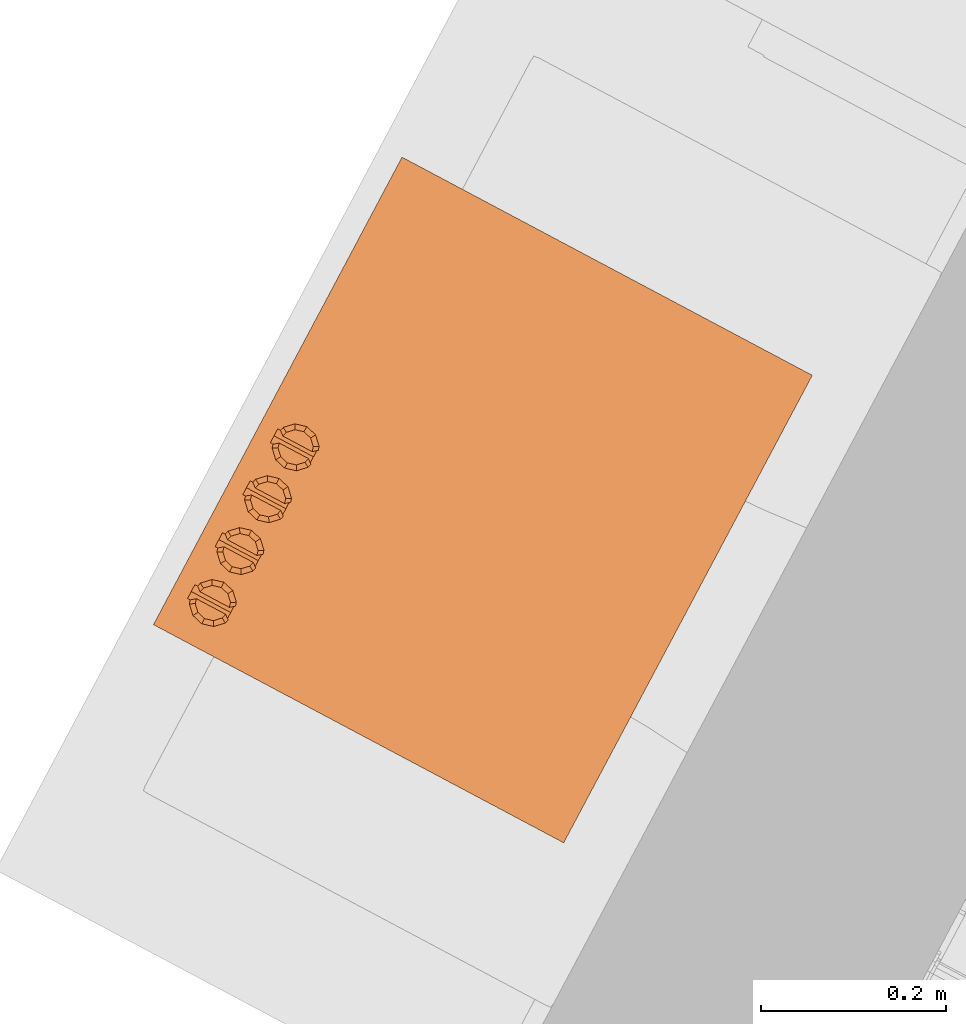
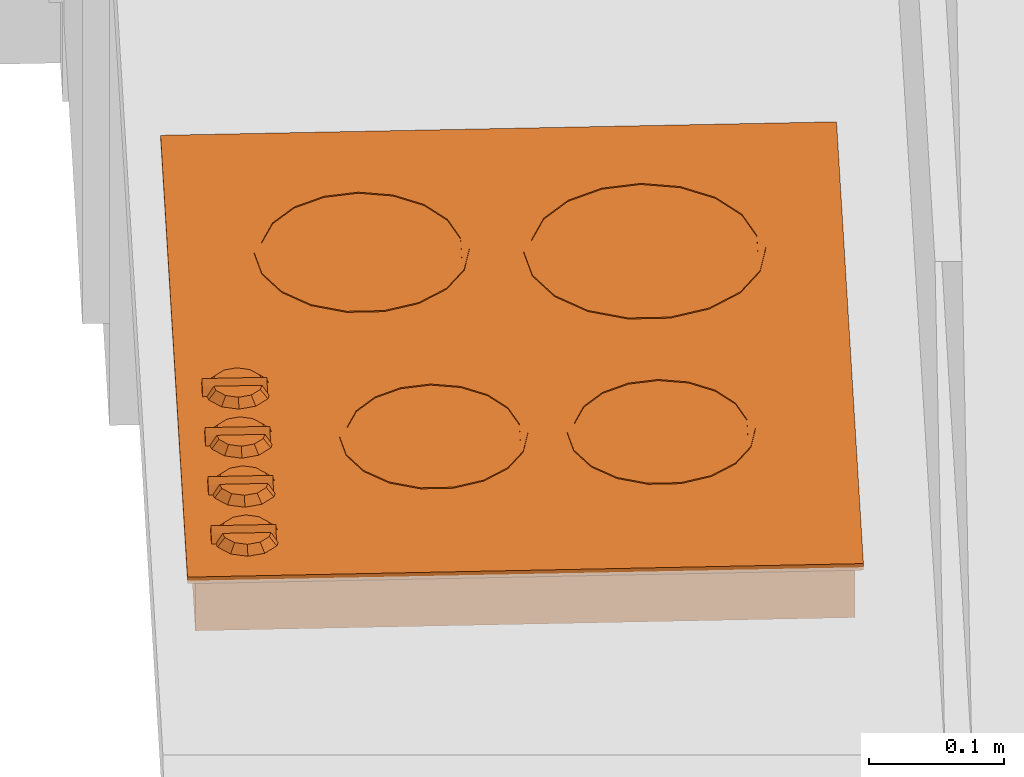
# One storey, part 23 of 27: 1 proxy.
"""IFC2X3 building model written with IfcOpenShell, lengths in metres."""

from ifc_helpers import new_model, entity, si_unit, converted_unit, derived_unit, money_unit, direction, frame, origin_with_axes, place, context, subcontext, project, spatial, faceted_brep, type_object, element, save


model = new_model("IFC2X3")

# Units and contexts
model_context = context("Model", 3, precision=1e-05, world=origin_with_axes(), true_north=direction((0.0, 1.0)))
body_context = subcontext(model_context, "Body", "Model", "MODEL_VIEW")
ifc_project = project(units=[si_unit("LENGTHUNIT", "METRE"), si_unit("AREAUNIT", "SQUARE_METRE"), si_unit("VOLUMEUNIT", "CUBIC_METRE"), converted_unit("PLANEANGLEUNIT", "DEGREE", entity("IfcPlaneAngleMeasure", 0.0174532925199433), si_unit("PLANEANGLEUNIT", "RADIAN"), dimensions=[0, 0, 0, 0, 0, 0, 0]), money_unit("CHF"), converted_unit("TIMEUNIT", "Year", entity("IfcTimeMeasure", 31557600.0), si_unit("TIMEUNIT", "SECOND"), dimensions=[0, 0, 1, 0, 0, 0, 0]), si_unit("MASSUNIT", "GRAM", prefix="KILO"), si_unit("THERMODYNAMICTEMPERATUREUNIT", "DEGREE_CELSIUS"), si_unit("LUMINOUSINTENSITYUNIT", "LUMEN"), si_unit("ENERGYUNIT", "JOULE", prefix="MEGA"), derived_unit("THERMALCONDUCTANCEUNIT", [(si_unit("POWERUNIT", "WATT"), 1), (si_unit("LENGTHUNIT", "METRE"), -1), (si_unit("THERMODYNAMICTEMPERATUREUNIT", "KELVIN"), -1)]), derived_unit("SPECIFICHEATCAPACITYUNIT", [(si_unit("ENERGYUNIT", "JOULE"), 1), (si_unit("MASSUNIT", "GRAM", prefix="KILO"), -1), (si_unit("THERMODYNAMICTEMPERATUREUNIT", "KELVIN"), -1)]), derived_unit("MASSDENSITYUNIT", [(si_unit("MASSUNIT", "GRAM", prefix="KILO"), 1), (si_unit("VOLUMEUNIT", "CUBIC_METRE"), -1)])], contexts=[model_context])

# Site, building, storey
site_placement = place(None, frame((0.0, 0.0, 0.0), z_axis=(0.0, 0.0, 1.0), x_axis=(-0.4694715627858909, -0.8829475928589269, 0.0)))
site = spatial("IfcSite", under=ifc_project, at=site_placement, Name="Site", CompositionType="ELEMENT")
building_placement = place(site_placement, origin_with_axes())
building = spatial("IfcBuilding", under=site, at=building_placement, Name="Bâtiment", CompositionType="ELEMENT")
storey_placement = place(building_placement, origin_with_axes())
storey = spatial("IfcBuildingStorey", under=building, at=storey_placement, Name="RDC", CompositionType="ELEMENT", Elevation=0.0)

# Proxy
building_element_proxy_type = type_object("IfcBuildingElementProxyType", Name="Table de cuisson électrique 27", PredefinedType="NOTDEFINED")
proxy_placement = place(storey_placement, frame((135.9435710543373, -829.6084803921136, -0.00373797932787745), z_axis=(0.0, 0.0, 1.0), x_axis=(1.0, 0.0, 0.0)))
element("IfcBuildingElementProxy", 1, at=proxy_placement, inside=storey, type_object=building_element_proxy_type, Name="Obj.-484", context=body_context, shape_type="Brep", body=[
    faceted_brep([(0.155, 0.224, 0.9), (0.1276383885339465, 0.2191754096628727, 0.9), (0.1276383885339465, 0.2191754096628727, 0.907), (0.155, 0.224, 0.907), (0.1823616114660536, 0.2191754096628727, 0.9), (0.2064230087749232, 0.2052835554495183, 0.9), (0.2242820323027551, 0.184, 0.9), (0.2337846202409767, 0.1578918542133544, 0.9), (0.2337846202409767, 0.1301081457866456, 0.9), (0.2242820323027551, 0.104, 0.9), (0.2064230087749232, 0.08271644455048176, 0.9), (0.1823616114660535, 0.06882459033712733, 0.9), (0.155, 0.06399999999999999, 0.9), (0.1276383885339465, 0.06882459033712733, 0.9), (0.1035769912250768, 0.08271644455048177, 0.9), (0.08571796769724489, 0.104, 0.9), (0.07621537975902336, 0.1301081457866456, 0.9), (0.07621537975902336, 0.1578918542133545, 0.9), (0.08571796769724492, 0.1840000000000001, 0.9), (0.1035769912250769, 0.2052835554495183, 0.9), (0.23, 0.144, 0.9), (0.2254769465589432, 0.1696515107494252, 0.9), (0.2124533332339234, 0.1922090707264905, 0.9), (0.1925, 0.2089519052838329, 0.9), (0.1680236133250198, 0.2178605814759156, 0.9), (0.1419763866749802, 0.2178605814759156, 0.9), (0.1175, 0.208951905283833, 0.9), (0.09754666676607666, 0.1922090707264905, 0.9), (0.08452305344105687, 0.1696515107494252, 0.9), (0.08, 0.144, 0.9), (0.08452305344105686, 0.1183484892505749, 0.9), (0.09754666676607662, 0.09579092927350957, 0.9), (0.1175, 0.07904809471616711, 0.9), (0.1419763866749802, 0.07013941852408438, 0.9), (0.1680236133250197, 0.07013941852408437, 0.9), (0.1925, 0.07904809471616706, 0.9), (0.2124533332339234, 0.09579092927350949, 0.9), (0.2254769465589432, 0.1183484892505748, 0.9), (0.1035769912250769, 0.2052835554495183, 0.907), (0.08571796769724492, 0.1840000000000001, 0.907), (0.07621537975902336, 0.1578918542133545, 0.907), (0.07621537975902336, 0.1301081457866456, 0.907), (0.08571796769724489, 0.104, 0.907), (0.1035769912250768, 0.08271644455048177, 0.907), (0.1276383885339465, 0.06882459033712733, 0.907), (0.155, 0.06399999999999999, 0.907), (0.1823616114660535, 0.06882459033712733, 0.907), (0.2064230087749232, 0.08271644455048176, 0.907), (0.2242820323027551, 0.104, 0.907), (0.2337846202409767, 0.1301081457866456, 0.907), (0.2337846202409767, 0.1578918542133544, 0.907), (0.2242820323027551, 0.184, 0.907), (0.2064230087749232, 0.2052835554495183, 0.907), (0.1823616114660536, 0.2191754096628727, 0.907), (0.23, 0.144, 0.907), (0.2254769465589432, 0.1183484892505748, 0.907), (0.2124533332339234, 0.09579092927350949, 0.907), (0.1925, 0.07904809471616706, 0.907), (0.1680236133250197, 0.07013941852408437, 0.907), (0.1419763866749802, 0.07013941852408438, 0.907), (0.1175, 0.07904809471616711, 0.907), (0.09754666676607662, 0.09579092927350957, 0.907), (0.08452305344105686, 0.1183484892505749, 0.907), (0.08, 0.144, 0.907), (0.08452305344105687, 0.1696515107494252, 0.907), (0.09754666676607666, 0.1922090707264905, 0.907), (0.1175, 0.208951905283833, 0.907), (0.1419763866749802, 0.2178605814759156, 0.907), (0.1680236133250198, 0.2178605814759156, 0.907), (0.1925, 0.2089519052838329, 0.907), (0.2124533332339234, 0.1922090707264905, 0.907), (0.2254769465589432, 0.1696515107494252, 0.907)], [[[0, 1, 2, 3]], [[0, 4, 5, 6, 7, 8, 9, 10, 11, 12, 13, 14, 15, 16, 17, 18, 19, 1], [20, 21, 22, 23, 24, 25, 26, 27, 28, 29, 30, 31, 32, 33, 34, 35, 36, 37]], [[1, 19, 38, 2]], [[3, 2, 38, 39, 40, 41, 42, 43, 44, 45, 46, 47, 48, 49, 50, 51, 52, 53], [54, 55, 56, 57, 58, 59, 60, 61, 62, 63, 64, 65, 66, 67, 68, 69, 70, 71]], [[4, 0, 3, 53]], [[5, 4, 53, 52]], [[6, 5, 52, 51]], [[7, 6, 51, 50]], [[8, 7, 50, 49]], [[9, 8, 49, 48]], [[10, 9, 48, 47]], [[11, 10, 47, 46]], [[12, 11, 46, 45]], [[13, 12, 45, 44]], [[14, 13, 44, 43]], [[15, 14, 43, 42]], [[16, 15, 42, 41]], [[17, 16, 41, 40]], [[18, 17, 40, 39]], [[19, 18, 39, 38]], [[21, 20, 54, 71]], [[22, 21, 71, 70]], [[23, 22, 70, 69]], [[24, 23, 69, 68]], [[25, 24, 68, 67]], [[26, 25, 67, 66]], [[27, 26, 66, 65]], [[28, 27, 65, 64]], [[29, 28, 64, 63]], [[30, 29, 63, 62]], [[31, 30, 62, 61]], [[32, 31, 61, 60]], [[33, 32, 60, 59]], [[34, 33, 59, 58]], [[35, 34, 58, 57]], [[36, 35, 57, 56]], [[37, 36, 56, 55]], [[20, 37, 55, 54]]]),
    faceted_brep([(0.395, 0.428, 0.9), (0.3710585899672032, 0.4237784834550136, 0.9), (0.3710585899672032, 0.4237784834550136, 0.907), (0.395, 0.428, 0.907), (0.4189414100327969, 0.4237784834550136, 0.9), (0.4399951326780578, 0.4116231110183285, 0.9), (0.4556217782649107, 0.393, 0.9), (0.4639365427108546, 0.3701553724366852, 0.9), (0.4639365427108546, 0.3458446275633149, 0.9), (0.4556217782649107, 0.323, 0.9), (0.4399951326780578, 0.3043768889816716, 0.9), (0.4189414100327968, 0.2922215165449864, 0.9), (0.395, 0.288, 0.9), (0.3710585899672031, 0.2922215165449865, 0.9), (0.3500048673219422, 0.3043768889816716, 0.9), (0.3343782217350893, 0.3230000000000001, 0.9), (0.3260634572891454, 0.3458446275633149, 0.9), (0.3260634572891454, 0.3701553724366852, 0.9), (0.3343782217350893, 0.3930000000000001, 0.9), (0.3500048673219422, 0.4116231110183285, 0.9), (0.46, 0.358, 0.9), (0.4560800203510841, 0.3802313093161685, 0.9), (0.4447928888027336, 0.3997811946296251, 0.9), (0.4275, 0.4142916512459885, 0.9), (0.4062871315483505, 0.4220125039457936, 0.9), (0.3837128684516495, 0.4220125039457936, 0.9), (0.3625, 0.4142916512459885, 0.9), (0.3452071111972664, 0.3997811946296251, 0.9), (0.333919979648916, 0.3802313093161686, 0.9), (0.33, 0.358, 0.9), (0.333919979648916, 0.3357686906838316, 0.9), (0.3452071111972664, 0.316218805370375, 0.9), (0.3625, 0.3017083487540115, 0.9), (0.3837128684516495, 0.2939874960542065, 0.9), (0.4062871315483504, 0.2939874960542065, 0.9), (0.4275, 0.3017083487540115, 0.9), (0.4447928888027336, 0.3162188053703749, 0.9), (0.4560800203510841, 0.3357686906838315, 0.9), (0.3500048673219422, 0.4116231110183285, 0.907), (0.3343782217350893, 0.3930000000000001, 0.907), (0.3260634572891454, 0.3701553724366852, 0.907), (0.3260634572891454, 0.3458446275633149, 0.907), (0.3343782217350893, 0.3230000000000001, 0.907), (0.3500048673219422, 0.3043768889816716, 0.907), (0.3710585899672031, 0.2922215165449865, 0.907), (0.395, 0.288, 0.907), (0.4189414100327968, 0.2922215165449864, 0.907), (0.4399951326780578, 0.3043768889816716, 0.907), (0.4556217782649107, 0.323, 0.907), (0.4639365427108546, 0.3458446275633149, 0.907), (0.4639365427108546, 0.3701553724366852, 0.907), (0.4556217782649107, 0.393, 0.907), (0.4399951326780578, 0.4116231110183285, 0.907), (0.4189414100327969, 0.4237784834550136, 0.907), (0.46, 0.358, 0.907), (0.4560800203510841, 0.3357686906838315, 0.907), (0.4447928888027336, 0.3162188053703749, 0.907), (0.4275, 0.3017083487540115, 0.907), (0.4062871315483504, 0.2939874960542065, 0.907), (0.3837128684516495, 0.2939874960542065, 0.907), (0.3625, 0.3017083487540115, 0.907), (0.3452071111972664, 0.316218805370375, 0.907), (0.333919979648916, 0.3357686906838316, 0.907), (0.33, 0.358, 0.907), (0.333919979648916, 0.3802313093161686, 0.907), (0.3452071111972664, 0.3997811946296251, 0.907), (0.3625, 0.4142916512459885, 0.907), (0.3837128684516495, 0.4220125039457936, 0.907), (0.4062871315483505, 0.4220125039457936, 0.907), (0.4275, 0.4142916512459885, 0.907), (0.4447928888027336, 0.3997811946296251, 0.907), (0.4560800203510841, 0.3802313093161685, 0.907)], [[[0, 1, 2, 3]], [[0, 4, 5, 6, 7, 8, 9, 10, 11, 12, 13, 14, 15, 16, 17, 18, 19, 1], [20, 21, 22, 23, 24, 25, 26, 27, 28, 29, 30, 31, 32, 33, 34, 35, 36, 37]], [[1, 19, 38, 2]], [[3, 2, 38, 39, 40, 41, 42, 43, 44, 45, 46, 47, 48, 49, 50, 51, 52, 53], [54, 55, 56, 57, 58, 59, 60, 61, 62, 63, 64, 65, 66, 67, 68, 69, 70, 71]], [[4, 0, 3, 53]], [[5, 4, 53, 52]], [[6, 5, 52, 51]], [[7, 6, 51, 50]], [[8, 7, 50, 49]], [[9, 8, 49, 48]], [[10, 9, 48, 47]], [[11, 10, 47, 46]], [[12, 11, 46, 45]], [[13, 12, 45, 44]], [[14, 13, 44, 43]], [[15, 14, 43, 42]], [[16, 15, 42, 41]], [[17, 16, 41, 40]], [[18, 17, 40, 39]], [[19, 18, 39, 38]], [[21, 20, 54, 71]], [[22, 21, 71, 70]], [[23, 22, 70, 69]], [[24, 23, 69, 68]], [[25, 24, 68, 67]], [[26, 25, 67, 66]], [[27, 26, 66, 65]], [[28, 27, 65, 64]], [[29, 28, 64, 63]], [[30, 29, 63, 62]], [[31, 30, 62, 61]], [[32, 31, 61, 60]], [[33, 32, 60, 59]], [[34, 33, 59, 58]], [[35, 34, 58, 57]], [[36, 35, 57, 56]], [[37, 36, 56, 55]], [[20, 37, 55, 54]]]),
    faceted_brep([(0.395, 0.259, 0.9), (0.3710585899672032, 0.2547784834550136, 0.9), (0.3710585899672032, 0.2547784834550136, 0.907), (0.395, 0.259, 0.907), (0.4189414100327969, 0.2547784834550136, 0.9), (0.4399951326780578, 0.2426231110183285, 0.9), (0.4556217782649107, 0.224, 0.9), (0.4639365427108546, 0.2011553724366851, 0.9), (0.4639365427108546, 0.1768446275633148, 0.9), (0.4556217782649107, 0.154, 0.9), (0.4399951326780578, 0.1353768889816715, 0.9), (0.4189414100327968, 0.1232215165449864, 0.9), (0.395, 0.119, 0.9), (0.3710585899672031, 0.1232215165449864, 0.9), (0.3500048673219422, 0.1353768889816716, 0.9), (0.3343782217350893, 0.154, 0.9), (0.3260634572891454, 0.1768446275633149, 0.9), (0.3260634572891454, 0.2011553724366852, 0.9), (0.3343782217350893, 0.224, 0.9), (0.3500048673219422, 0.2426231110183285, 0.9), (0.46, 0.189, 0.9), (0.4560800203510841, 0.2112313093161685, 0.9), (0.4447928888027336, 0.2307811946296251, 0.9), (0.4275, 0.2452916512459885, 0.9), (0.4062871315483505, 0.2530125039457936, 0.9), (0.3837128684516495, 0.2530125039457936, 0.9), (0.3625, 0.2452916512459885, 0.9), (0.3452071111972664, 0.2307811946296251, 0.9), (0.333919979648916, 0.2112313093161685, 0.9), (0.33, 0.189, 0.9), (0.333919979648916, 0.1667686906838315, 0.9), (0.3452071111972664, 0.147218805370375, 0.9), (0.3625, 0.1327083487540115, 0.9), (0.3837128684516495, 0.1249874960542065, 0.9), (0.4062871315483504, 0.1249874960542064, 0.9), (0.4275, 0.1327083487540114, 0.9), (0.4447928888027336, 0.1472188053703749, 0.9), (0.4560800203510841, 0.1667686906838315, 0.9), (0.3500048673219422, 0.2426231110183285, 0.907), (0.3343782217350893, 0.224, 0.907), (0.3260634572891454, 0.2011553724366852, 0.907), (0.3260634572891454, 0.1768446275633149, 0.907), (0.3343782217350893, 0.154, 0.907), (0.3500048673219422, 0.1353768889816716, 0.907), (0.3710585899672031, 0.1232215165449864, 0.907), (0.395, 0.119, 0.907), (0.4189414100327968, 0.1232215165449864, 0.907), (0.4399951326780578, 0.1353768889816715, 0.907), (0.4556217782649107, 0.154, 0.907), (0.4639365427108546, 0.1768446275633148, 0.907), (0.4639365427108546, 0.2011553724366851, 0.907), (0.4556217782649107, 0.224, 0.907), (0.4399951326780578, 0.2426231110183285, 0.907), (0.4189414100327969, 0.2547784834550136, 0.907), (0.46, 0.189, 0.907), (0.4560800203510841, 0.1667686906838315, 0.907), (0.4447928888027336, 0.1472188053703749, 0.907), (0.4275, 0.1327083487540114, 0.907), (0.4062871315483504, 0.1249874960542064, 0.907), (0.3837128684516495, 0.1249874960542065, 0.907), (0.3625, 0.1327083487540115, 0.907), (0.3452071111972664, 0.147218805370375, 0.907), (0.333919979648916, 0.1667686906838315, 0.907), (0.33, 0.189, 0.907), (0.333919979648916, 0.2112313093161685, 0.907), (0.3452071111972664, 0.2307811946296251, 0.907), (0.3625, 0.2452916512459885, 0.907), (0.3837128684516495, 0.2530125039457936, 0.907), (0.4062871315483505, 0.2530125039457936, 0.907), (0.4275, 0.2452916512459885, 0.907), (0.4447928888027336, 0.2307811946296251, 0.907), (0.4560800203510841, 0.2112313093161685, 0.907)], [[[0, 1, 2, 3]], [[0, 4, 5, 6, 7, 8, 9, 10, 11, 12, 13, 14, 15, 16, 17, 18, 19, 1], [20, 21, 22, 23, 24, 25, 26, 27, 28, 29, 30, 31, 32, 33, 34, 35, 36, 37]], [[1, 19, 38, 2]], [[3, 2, 38, 39, 40, 41, 42, 43, 44, 45, 46, 47, 48, 49, 50, 51, 52, 53], [54, 55, 56, 57, 58, 59, 60, 61, 62, 63, 64, 65, 66, 67, 68, 69, 70, 71]], [[4, 0, 3, 53]], [[5, 4, 53, 52]], [[6, 5, 52, 51]], [[7, 6, 51, 50]], [[8, 7, 50, 49]], [[9, 8, 49, 48]], [[10, 9, 48, 47]], [[11, 10, 47, 46]], [[12, 11, 46, 45]], [[13, 12, 45, 44]], [[14, 13, 44, 43]], [[15, 14, 43, 42]], [[16, 15, 42, 41]], [[17, 16, 41, 40]], [[18, 17, 40, 39]], [[19, 18, 39, 38]], [[21, 20, 54, 71]], [[22, 21, 71, 70]], [[23, 22, 70, 69]], [[24, 23, 69, 68]], [[25, 24, 68, 67]], [[26, 25, 67, 66]], [[27, 26, 66, 65]], [[28, 27, 65, 64]], [[29, 28, 64, 63]], [[30, 29, 63, 62]], [[31, 30, 62, 61]], [[32, 31, 61, 60]], [[33, 32, 60, 59]], [[34, 33, 59, 58]], [[35, 34, 58, 57]], [[36, 35, 57, 56]], [[37, 36, 56, 55]], [[20, 37, 55, 54]]]),
    faceted_brep([(0.161, 0.4440000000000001, 0.9), (0.1302181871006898, 0.4385723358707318, 0.9), (0.1302181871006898, 0.4385723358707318, 0.907), (0.161, 0.4440000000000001, 0.907), (0.1917818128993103, 0.4385723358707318, 0.9), (0.2188508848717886, 0.4229439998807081, 0.9), (0.2389422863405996, 0.399, 0.9), (0.2496326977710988, 0.3696283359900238, 0.9), (0.2496326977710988, 0.3383716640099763, 0.9), (0.2389422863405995, 0.309, 0.9), (0.2188508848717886, 0.285056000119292, 0.9), (0.1917818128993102, 0.2694276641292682, 0.9), (0.1609999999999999, 0.264, 0.9), (0.1302181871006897, 0.2694276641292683, 0.9), (0.1031491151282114, 0.285056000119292, 0.9), (0.08305771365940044, 0.3090000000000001, 0.9), (0.07236730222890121, 0.3383716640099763, 0.9), (0.07236730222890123, 0.3696283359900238, 0.9), (0.08305771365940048, 0.3990000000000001, 0.9), (0.1031491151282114, 0.4229439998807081, 0.9), (0.246, 0.354, 0.9), (0.2408738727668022, 0.3830717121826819, 0.9), (0.2261137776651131, 0.4086369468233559, 0.9), (0.2035, 0.4276121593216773, 0.9), (0.1757600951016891, 0.4377086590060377, 0.9), (0.1462399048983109, 0.4377086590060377, 0.9), (0.1185, 0.4276121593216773, 0.9), (0.09588622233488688, 0.4086369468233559, 0.9), (0.08112612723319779, 0.3830717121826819, 0.9), (0.076, 0.3540000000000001, 0.9), (0.08112612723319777, 0.3249282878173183, 0.9), (0.09588622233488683, 0.2993630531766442, 0.9), (0.1185, 0.2803878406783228, 0.9), (0.1462399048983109, 0.2702913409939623, 0.9), (0.175760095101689, 0.2702913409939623, 0.9), (0.2035, 0.2803878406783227, 0.9), (0.2261137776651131, 0.2993630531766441, 0.9), (0.2408738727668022, 0.3249282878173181, 0.9), (0.1031491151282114, 0.4229439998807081, 0.907), (0.08305771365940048, 0.3990000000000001, 0.907), (0.07236730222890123, 0.3696283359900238, 0.907), (0.07236730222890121, 0.3383716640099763, 0.907), (0.08305771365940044, 0.3090000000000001, 0.907), (0.1031491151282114, 0.285056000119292, 0.907), (0.1302181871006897, 0.2694276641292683, 0.907), (0.1609999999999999, 0.264, 0.907), (0.1917818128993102, 0.2694276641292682, 0.907), (0.2188508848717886, 0.285056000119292, 0.907), (0.2389422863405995, 0.309, 0.907), (0.2496326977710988, 0.3383716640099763, 0.907), (0.2496326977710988, 0.3696283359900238, 0.907), (0.2389422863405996, 0.399, 0.907), (0.2188508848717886, 0.4229439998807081, 0.907), (0.1917818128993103, 0.4385723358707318, 0.907), (0.246, 0.354, 0.907), (0.2408738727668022, 0.3249282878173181, 0.907), (0.2261137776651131, 0.2993630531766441, 0.907), (0.2035, 0.2803878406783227, 0.907), (0.175760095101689, 0.2702913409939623, 0.907), (0.1462399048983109, 0.2702913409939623, 0.907), (0.1185, 0.2803878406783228, 0.907), (0.09588622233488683, 0.2993630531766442, 0.907), (0.08112612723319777, 0.3249282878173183, 0.907), (0.076, 0.3540000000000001, 0.907), (0.08112612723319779, 0.3830717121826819, 0.907), (0.09588622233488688, 0.4086369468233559, 0.907), (0.1185, 0.4276121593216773, 0.907), (0.1462399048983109, 0.4377086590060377, 0.907), (0.1757600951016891, 0.4377086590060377, 0.907), (0.2035, 0.4276121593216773, 0.907), (0.2261137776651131, 0.4086369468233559, 0.907), (0.2408738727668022, 0.3830717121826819, 0.907)], [[[0, 1, 2, 3]], [[0, 4, 5, 6, 7, 8, 9, 10, 11, 12, 13, 14, 15, 16, 17, 18, 19, 1], [20, 21, 22, 23, 24, 25, 26, 27, 28, 29, 30, 31, 32, 33, 34, 35, 36, 37]], [[1, 19, 38, 2]], [[3, 2, 38, 39, 40, 41, 42, 43, 44, 45, 46, 47, 48, 49, 50, 51, 52, 53], [54, 55, 56, 57, 58, 59, 60, 61, 62, 63, 64, 65, 66, 67, 68, 69, 70, 71]], [[4, 0, 3, 53]], [[5, 4, 53, 52]], [[6, 5, 52, 51]], [[7, 6, 51, 50]], [[8, 7, 50, 49]], [[9, 8, 49, 48]], [[10, 9, 48, 47]], [[11, 10, 47, 46]], [[12, 11, 46, 45]], [[13, 12, 45, 44]], [[14, 13, 44, 43]], [[15, 14, 43, 42]], [[16, 15, 42, 41]], [[17, 16, 41, 40]], [[18, 17, 40, 39]], [[19, 18, 39, 38]], [[21, 20, 54, 71]], [[22, 21, 71, 70]], [[23, 22, 70, 69]], [[24, 23, 69, 68]], [[25, 24, 68, 67]], [[26, 25, 67, 66]], [[27, 26, 66, 65]], [[28, 27, 65, 64]], [[29, 28, 64, 63]], [[30, 29, 63, 62]], [[31, 30, 62, 61]], [[32, 31, 61, 60]], [[33, 32, 60, 59]], [[34, 33, 59, 58]], [[35, 34, 58, 57]], [[36, 35, 57, 56]], [[37, 36, 56, 55]], [[20, 37, 55, 54]]]),
    faceted_brep([(0.5720000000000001, 0.502, 0.9), (0.0, 0.502, 0.9), (0.0, 0.502, 0.906), (0.5720000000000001, 0.502, 0.906), (0.5720000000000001, 0.0, 0.9), (0.0, 0.0, 0.9), (0.0, 0.0, 0.906), (0.5720000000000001, 0.0, 0.906)], [[[0, 1, 2, 3]], [[0, 4, 5, 1]], [[1, 5, 6, 2]], [[3, 2, 6, 7]], [[4, 0, 3, 7]], [[5, 4, 7, 6]]]),
    faceted_brep([(0.5660000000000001, 0.496, 0.853), (0.006, 0.496, 0.853), (0.006, 0.496, 0.9), (0.5660000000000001, 0.496, 0.9), (0.5660000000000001, 0.006, 0.853), (0.006, 0.006, 0.853), (0.006, 0.006, 0.9), (0.5660000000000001, 0.006, 0.9)], [[[0, 1, 2, 3]], [[0, 4, 5, 1]], [[1, 5, 6, 2]], [[3, 2, 6, 7]], [[4, 0, 3, 7]], [[5, 4, 7, 6]]]),
    faceted_brep([(0.5169666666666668, 0.02780431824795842, 0.91235), (0.5169666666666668, 0.0636356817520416, 0.91235), (0.5116750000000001, 0.06221778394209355, 0.91235), (0.5047022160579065, 0.055245, 0.91235), (0.5021500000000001, 0.04572000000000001, 0.91235), (0.5047022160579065, 0.03619500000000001, 0.91235), (0.5116750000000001, 0.02922221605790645, 0.91235), (0.5127333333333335, 0.06885136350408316, 0.906), (0.5127333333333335, 0.02258863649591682, 0.906), (0.5085000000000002, 0.06771704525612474, 0.906), (0.4992029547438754, 0.05842000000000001, 0.906), (0.4958000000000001, 0.04572000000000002, 0.906), (0.4992029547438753, 0.03302000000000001, 0.906), (0.5085000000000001, 0.02372295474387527, 0.906)], [[[0, 1, 2, 3, 4, 5, 6]], [[7, 1, 0, 8]], [[1, 7, 9, 2]], [[10, 3, 2, 9]], [[11, 4, 3, 10]], [[12, 5, 4, 11]], [[13, 6, 5, 12]], [[8, 0, 6, 13]], [[7, 8, 13, 12, 11, 10, 9]]]),
    faceted_brep([(0.5296666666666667, 0.02258863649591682, 0.906), (0.5296666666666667, 0.06885136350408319, 0.906), (0.5339000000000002, 0.06771704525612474, 0.906), (0.5431970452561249, 0.05841999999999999, 0.906), (0.5466000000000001, 0.04571999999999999, 0.906), (0.5431970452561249, 0.03301999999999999, 0.906), (0.5339000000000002, 0.02372295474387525, 0.906), (0.5254333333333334, 0.06363568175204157, 0.91235), (0.5254333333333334, 0.02780431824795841, 0.91235), (0.5307250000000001, 0.06221778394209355, 0.91235), (0.5376977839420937, 0.05524499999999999, 0.91235), (0.5402500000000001, 0.04571999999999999, 0.91235), (0.5376977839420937, 0.036195, 0.91235), (0.5307250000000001, 0.02922221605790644, 0.91235)], [[[0, 1, 2, 3, 4, 5, 6]], [[7, 1, 0, 8]], [[1, 7, 9, 2]], [[2, 9, 10, 3]], [[3, 10, 11, 4]], [[4, 11, 12, 5]], [[5, 12, 13, 6]], [[8, 0, 6, 13]], [[7, 8, 13, 12, 11, 10, 9]]]),
    faceted_brep([(0.5296666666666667, 0.01926166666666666, 0.906), (0.5127333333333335, 0.01926166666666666, 0.906), (0.5127333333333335, 0.06752166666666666, 0.906), (0.5296666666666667, 0.06752166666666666, 0.906), (0.5254333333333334, 0.01926166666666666, 0.91235), (0.5212000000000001, 0.01926166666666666, 0.9165833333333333), (0.5169666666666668, 0.01926166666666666, 0.91235), (0.5169666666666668, 0.06752166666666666, 0.91235), (0.5212000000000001, 0.06752166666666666, 0.9165833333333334), (0.5254333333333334, 0.06752166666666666, 0.91235)], [[[0, 1, 2, 3]], [[0, 4, 5, 6, 1]], [[1, 6, 7, 2]], [[3, 2, 7, 8, 9]], [[4, 0, 3, 9]], [[5, 4, 9, 8]], [[6, 5, 8, 7]]]),
    faceted_brep([(0.4534666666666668, 0.02780431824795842, 0.91235), (0.4534666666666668, 0.0636356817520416, 0.91235), (0.4481750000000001, 0.06221778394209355, 0.91235), (0.4412022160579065, 0.055245, 0.91235), (0.4386500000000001, 0.04572000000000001, 0.91235), (0.4412022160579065, 0.03619500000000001, 0.91235), (0.4481750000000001, 0.02922221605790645, 0.91235), (0.4492333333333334, 0.06885136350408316, 0.906), (0.4492333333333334, 0.02258863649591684, 0.906), (0.4450000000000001, 0.06771704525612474, 0.906), (0.4357029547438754, 0.05842000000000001, 0.906), (0.4323000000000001, 0.04572000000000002, 0.906), (0.4357029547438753, 0.03302000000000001, 0.906), (0.4450000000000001, 0.02372295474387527, 0.906)], [[[0, 1, 2, 3, 4, 5, 6]], [[7, 1, 0, 8]], [[1, 7, 9, 2]], [[10, 3, 2, 9]], [[11, 4, 3, 10]], [[12, 5, 4, 11]], [[13, 6, 5, 12]], [[8, 0, 6, 13]], [[7, 8, 13, 12, 11, 10, 9]]]),
    faceted_brep([(0.4661666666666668, 0.02258863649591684, 0.906), (0.4661666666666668, 0.06885136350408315, 0.906), (0.4704000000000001, 0.06771704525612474, 0.906), (0.4796970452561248, 0.05841999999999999, 0.906), (0.4831000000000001, 0.04571999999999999, 0.906), (0.4796970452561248, 0.03301999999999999, 0.906), (0.4704000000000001, 0.02372295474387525, 0.906), (0.4619333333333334, 0.06363568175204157, 0.91235), (0.4619333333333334, 0.02780431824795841, 0.91235), (0.4672250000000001, 0.06221778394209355, 0.91235), (0.4741977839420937, 0.05524499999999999, 0.91235), (0.4767500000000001, 0.04571999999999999, 0.91235), (0.4741977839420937, 0.036195, 0.91235), (0.4672250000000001, 0.02922221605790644, 0.91235)], [[[0, 1, 2, 3, 4, 5, 6]], [[7, 1, 0, 8]], [[1, 7, 9, 2]], [[2, 9, 10, 3]], [[3, 10, 11, 4]], [[4, 11, 12, 5]], [[5, 12, 13, 6]], [[8, 0, 6, 13]], [[7, 8, 13, 12, 11, 10, 9]]]),
    faceted_brep([(0.4661666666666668, 0.01926166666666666, 0.906), (0.4492333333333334, 0.01926166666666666, 0.906), (0.4492333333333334, 0.06752166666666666, 0.906), (0.4661666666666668, 0.06752166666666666, 0.906), (0.4619333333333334, 0.01926166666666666, 0.91235), (0.4577000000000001, 0.01926166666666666, 0.9165833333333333), (0.4534666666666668, 0.01926166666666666, 0.91235), (0.4534666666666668, 0.06752166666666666, 0.91235), (0.4577000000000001, 0.06752166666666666, 0.9165833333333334), (0.4619333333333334, 0.06752166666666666, 0.91235)], [[[0, 1, 2, 3]], [[0, 4, 5, 6, 1]], [[1, 6, 7, 2]], [[3, 2, 7, 8, 9]], [[4, 0, 3, 9]], [[5, 4, 9, 8]], [[6, 5, 8, 7]]]),
    faceted_brep([(0.3899666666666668, 0.02780431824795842, 0.91235), (0.3899666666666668, 0.0636356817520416, 0.91235), (0.3846750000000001, 0.06221778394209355, 0.91235), (0.3777022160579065, 0.055245, 0.91235), (0.3751500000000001, 0.04572000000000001, 0.91235), (0.3777022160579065, 0.03619500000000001, 0.91235), (0.3846750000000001, 0.02922221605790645, 0.91235), (0.3857333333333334, 0.06885136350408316, 0.906), (0.3857333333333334, 0.02258863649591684, 0.906), (0.3815000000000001, 0.06771704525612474, 0.906), (0.3722029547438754, 0.05842000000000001, 0.906), (0.3688000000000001, 0.04572000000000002, 0.906), (0.3722029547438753, 0.03302000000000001, 0.906), (0.3815000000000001, 0.02372295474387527, 0.906)], [[[0, 1, 2, 3, 4, 5, 6]], [[7, 1, 0, 8]], [[1, 7, 9, 2]], [[10, 3, 2, 9]], [[11, 4, 3, 10]], [[12, 5, 4, 11]], [[13, 6, 5, 12]], [[8, 0, 6, 13]], [[7, 8, 13, 12, 11, 10, 9]]]),
    faceted_brep([(0.4026666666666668, 0.02258863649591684, 0.906), (0.4026666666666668, 0.06885136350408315, 0.906), (0.4069000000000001, 0.06771704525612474, 0.906), (0.4161970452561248, 0.05841999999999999, 0.906), (0.4196000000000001, 0.04571999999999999, 0.906), (0.4161970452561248, 0.03301999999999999, 0.906), (0.4069000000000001, 0.02372295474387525, 0.906), (0.3984333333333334, 0.06363568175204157, 0.91235), (0.3984333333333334, 0.02780431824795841, 0.91235), (0.4037250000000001, 0.06221778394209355, 0.91235), (0.4106977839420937, 0.05524499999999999, 0.91235), (0.4132500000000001, 0.04571999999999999, 0.91235), (0.4106977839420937, 0.036195, 0.91235), (0.4037250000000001, 0.02922221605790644, 0.91235)], [[[0, 1, 2, 3, 4, 5, 6]], [[7, 1, 0, 8]], [[1, 7, 9, 2]], [[2, 9, 10, 3]], [[3, 10, 11, 4]], [[4, 11, 12, 5]], [[5, 12, 13, 6]], [[8, 0, 6, 13]], [[7, 8, 13, 12, 11, 10, 9]]]),
    faceted_brep([(0.4026666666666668, 0.01926166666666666, 0.906), (0.3857333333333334, 0.01926166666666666, 0.906), (0.3857333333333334, 0.06752166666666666, 0.906), (0.4026666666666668, 0.06752166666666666, 0.906), (0.3984333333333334, 0.01926166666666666, 0.91235), (0.3942000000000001, 0.01926166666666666, 0.9165833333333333), (0.3899666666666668, 0.01926166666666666, 0.91235), (0.3899666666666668, 0.06752166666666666, 0.91235), (0.3942000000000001, 0.06752166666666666, 0.9165833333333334), (0.3984333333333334, 0.06752166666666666, 0.91235)], [[[0, 1, 2, 3]], [[0, 4, 5, 6, 1]], [[1, 6, 7, 2]], [[3, 2, 7, 8, 9]], [[4, 0, 3, 9]], [[5, 4, 9, 8]], [[6, 5, 8, 7]]]),
    faceted_brep([(0.3264666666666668, 0.02780431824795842, 0.91235), (0.3264666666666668, 0.0636356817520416, 0.91235), (0.3211750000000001, 0.06221778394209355, 0.91235), (0.3142022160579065, 0.055245, 0.91235), (0.3116500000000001, 0.04572000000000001, 0.91235), (0.3142022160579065, 0.03619500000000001, 0.91235), (0.3211750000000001, 0.02922221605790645, 0.91235), (0.3222333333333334, 0.06885136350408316, 0.906), (0.3222333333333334, 0.02258863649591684, 0.906), (0.3180000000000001, 0.06771704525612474, 0.906), (0.3087029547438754, 0.05842000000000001, 0.906), (0.3053000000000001, 0.04572000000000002, 0.906), (0.3087029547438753, 0.03302000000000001, 0.906), (0.3180000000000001, 0.02372295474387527, 0.906)], [[[0, 1, 2, 3, 4, 5, 6]], [[7, 1, 0, 8]], [[1, 7, 9, 2]], [[10, 3, 2, 9]], [[11, 4, 3, 10]], [[12, 5, 4, 11]], [[13, 6, 5, 12]], [[8, 0, 6, 13]], [[7, 8, 13, 12, 11, 10, 9]]]),
    faceted_brep([(0.3391666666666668, 0.02258863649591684, 0.906), (0.3391666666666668, 0.06885136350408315, 0.906), (0.3434000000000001, 0.06771704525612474, 0.906), (0.3526970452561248, 0.05841999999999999, 0.906), (0.3561000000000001, 0.04571999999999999, 0.906), (0.3526970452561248, 0.03301999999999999, 0.906), (0.3434000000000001, 0.02372295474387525, 0.906), (0.3349333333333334, 0.06363568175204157, 0.91235), (0.3349333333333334, 0.02780431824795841, 0.91235), (0.3402250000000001, 0.06221778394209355, 0.91235), (0.3471977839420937, 0.05524499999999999, 0.91235), (0.3497500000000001, 0.04571999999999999, 0.91235), (0.3471977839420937, 0.036195, 0.91235), (0.3402250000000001, 0.02922221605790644, 0.91235)], [[[0, 1, 2, 3, 4, 5, 6]], [[7, 1, 0, 8]], [[1, 7, 9, 2]], [[2, 9, 10, 3]], [[3, 10, 11, 4]], [[4, 11, 12, 5]], [[5, 12, 13, 6]], [[8, 0, 6, 13]], [[7, 8, 13, 12, 11, 10, 9]]]),
    faceted_brep([(0.3391666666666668, 0.01926166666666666, 0.906), (0.3222333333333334, 0.01926166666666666, 0.906), (0.3222333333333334, 0.06752166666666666, 0.906), (0.3391666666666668, 0.06752166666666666, 0.906), (0.3349333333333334, 0.01926166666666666, 0.91235), (0.3307000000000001, 0.01926166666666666, 0.9165833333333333), (0.3264666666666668, 0.01926166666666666, 0.91235), (0.3264666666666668, 0.06752166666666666, 0.91235), (0.3307000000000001, 0.06752166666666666, 0.9165833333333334), (0.3349333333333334, 0.06752166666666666, 0.91235)], [[[0, 1, 2, 3]], [[0, 4, 5, 6, 1]], [[1, 6, 7, 2]], [[3, 2, 7, 8, 9]], [[4, 0, 3, 9]], [[5, 4, 9, 8]], [[6, 5, 8, 7]]]),
])

save(model, "model.ifc")
